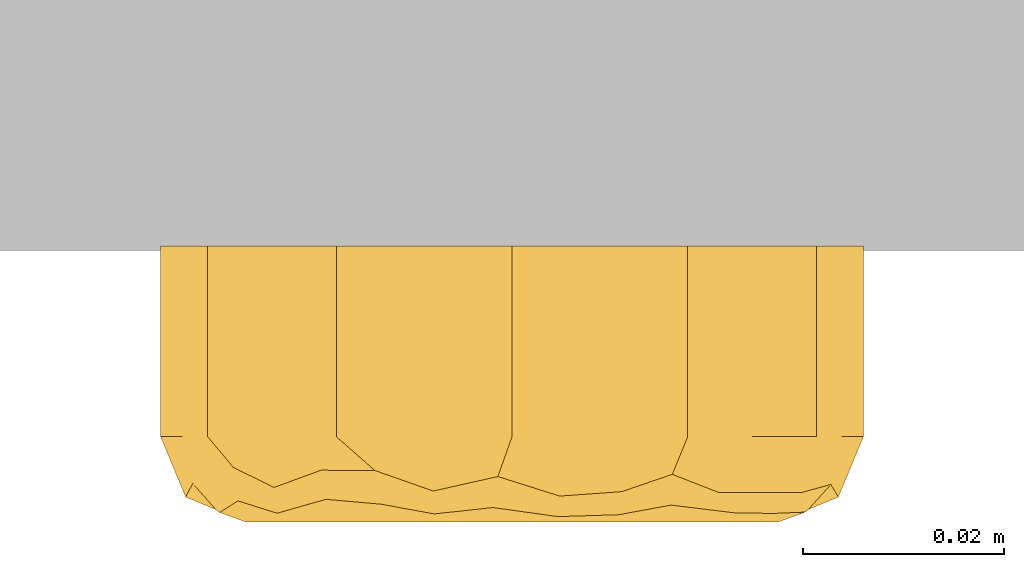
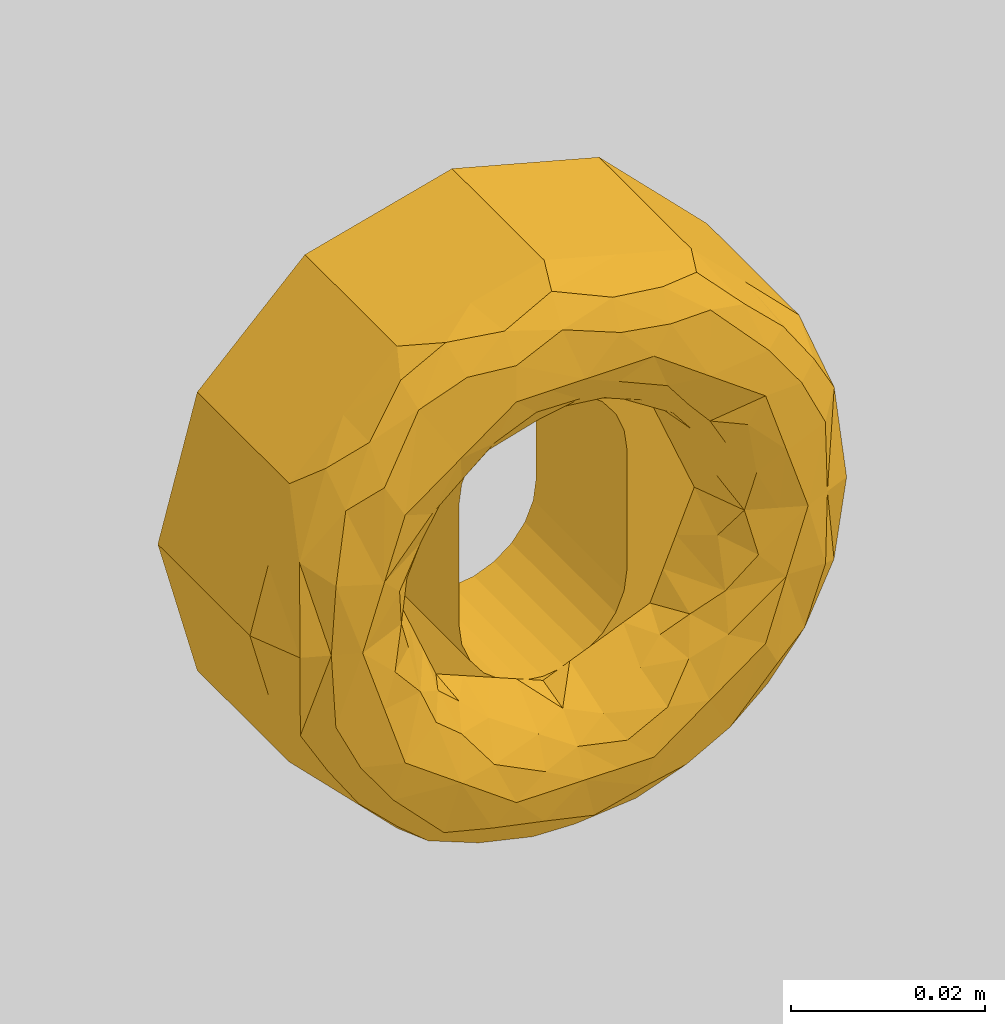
# One storey, part 2 of 2: 1 door.
"""IFC2X3 building model written with IfcOpenShell, lengths in feet."""

from ifc_helpers import new_model, entity, si_unit, converted_unit, derived_unit, direction, frame, origin, place, context, subcontext, project, spatial, face_set, surface_model, source, transform, mapped, type_object, type_shapes, element, save


model = new_model("IFC2X3")

# Units and contexts
model_context = context("Model", 3, precision=0.0001, world=origin(), true_north=direction((6.12303176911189e-17, 1.0)))
body_context = subcontext(model_context, "Body", "Model", "MODEL_VIEW")
ifc_project = project(units=[converted_unit("LENGTHUNIT", "FOOT", entity("IfcRatioMeasure", 0.3048), si_unit("LENGTHUNIT", "METRE"), dimensions=[1, 0, 0, 0, 0, 0, 0]), converted_unit("AREAUNIT", "SQUARE FOOT", entity("IfcRatioMeasure", 0.09290304), si_unit("AREAUNIT", "SQUARE_METRE"), dimensions=[2, 0, 0, 0, 0, 0, 0]), converted_unit("VOLUMEUNIT", "CUBIC FOOT", entity("IfcRatioMeasure", 0.028316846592), si_unit("VOLUMEUNIT", "CUBIC_METRE"), dimensions=[3, 0, 0, 0, 0, 0, 0]), converted_unit("PLANEANGLEUNIT", "DEGREE", entity("IfcRatioMeasure", 0.0174532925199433), si_unit("PLANEANGLEUNIT", "RADIAN"), dimensions=[0, 0, 0, 0, 0, 0, 0]), si_unit("MASSUNIT", "GRAM", prefix="KILO"), derived_unit("MASSDENSITYUNIT", [(si_unit("MASSUNIT", "GRAM", prefix="KILO"), 1), (si_unit("LENGTHUNIT", "METRE"), -3)]), si_unit("TIMEUNIT", "SECOND"), si_unit("FREQUENCYUNIT", "HERTZ"), si_unit("THERMODYNAMICTEMPERATUREUNIT", "DEGREE_CELSIUS"), derived_unit("THERMALTRANSMITTANCEUNIT", [(si_unit("MASSUNIT", "GRAM", prefix="KILO"), 1), (si_unit("THERMODYNAMICTEMPERATUREUNIT", "KELVIN"), -1), (si_unit("TIMEUNIT", "SECOND"), -3)]), derived_unit("VOLUMETRICFLOWRATEUNIT", [(si_unit("LENGTHUNIT", "METRE"), 3), (si_unit("TIMEUNIT", "SECOND"), -1)]), si_unit("ELECTRICCURRENTUNIT", "AMPERE"), si_unit("ELECTRICVOLTAGEUNIT", "VOLT"), si_unit("POWERUNIT", "WATT"), si_unit("FORCEUNIT", "NEWTON"), si_unit("ILLUMINANCEUNIT", "LUX"), si_unit("LUMINOUSFLUXUNIT", "LUMEN"), si_unit("LUMINOUSINTENSITYUNIT", "CANDELA"), derived_unit("USERDEFINED", [(si_unit("MASSUNIT", "GRAM", prefix="KILO"), -1), (si_unit("LENGTHUNIT", "METRE"), -2), (si_unit("TIMEUNIT", "SECOND"), 3), (si_unit("LUMINOUSFLUXUNIT", "LUMEN"), 1)]), derived_unit("LINEARVELOCITYUNIT", [(si_unit("LENGTHUNIT", "METRE"), 1), (si_unit("TIMEUNIT", "SECOND"), -1)]), si_unit("PRESSUREUNIT", "PASCAL"), derived_unit("USERDEFINED", [(si_unit("LENGTHUNIT", "METRE"), -2), (si_unit("MASSUNIT", "GRAM", prefix="KILO"), 1), (si_unit("TIMEUNIT", "SECOND"), -2)])], contexts=[model_context])

# Site, building, storey
site_placement = place(None, origin())
site = spatial("IfcSite", under=ifc_project, at=site_placement, Name="Default", CompositionType="ELEMENT")
building_placement = place(site_placement, origin())
building = spatial("IfcBuilding", under=site, at=building_placement, CompositionType="ELEMENT")
storey_placement = place(building_placement, origin())
storey = spatial("IfcBuildingStorey", under=building, at=storey_placement, Name="Level 1", CompositionType="ELEMENT", Elevation=0.0)

# Door
door_style = type_object("IfcDoorStyle", Name="dline_Hardware_TomDixonCollection_Escutcheons_Oval_Half_SnapOn_18.25", ConstructionType="NOTDEFINED", OperationType="DOUBLE_SWING_RIGHT", ParameterTakesPrecedence=False, Sizeable=False)
shared_shape = source(origin(), body_context, "Body", "SurfaceModel", [
    surface_model("IfcFaceBasedSurfaceModel", [(-0.114829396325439, 0.0, -0.00161922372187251), (-0.0994451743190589, 0.0574146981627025, -0.00161922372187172), (-0.0574146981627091, 0.0994451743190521, -0.00161922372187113), (0.0, 0.114829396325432, -0.00161922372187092), (0.0574146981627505, 0.099445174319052, -0.00161922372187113), (0.0994451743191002, 0.0574146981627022, -0.00161922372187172), (0.11482939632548, 0.0, -0.00161922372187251), (0.0328083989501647, 0.0, -0.00161922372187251), (0.0328083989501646, 0.0246062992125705, -0.00161922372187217), (0.0316904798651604, 0.033097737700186, -0.00161922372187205), (0.028412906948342, 0.0410104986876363, -0.00161922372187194), (0.0231990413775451, 0.0478053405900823, -0.00161922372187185), (0.0164041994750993, 0.0530192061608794, -0.00161922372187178), (0.00849143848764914, 0.0562967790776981, -0.00161922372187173), (0.0, 0.0574146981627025, -0.00161922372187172), (-0.00849143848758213, 0.0562967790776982, -0.00161922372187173), (-0.0164041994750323, 0.0530192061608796, -0.00161922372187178), (-0.0231990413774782, 0.0478053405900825, -0.00161922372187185), (-0.0284129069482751, 0.0410104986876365, -0.00161922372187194), (-0.0316904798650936, 0.0330977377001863, -0.00161922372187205), (-0.0328083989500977, 0.0246062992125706, -0.00161922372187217), (-0.0328083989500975, 0.0, -0.00161922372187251), (0.0994451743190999, -0.0574146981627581, -0.0016192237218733), (0.0574146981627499, -0.0994451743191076, -0.00161922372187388), (0.0, -0.114829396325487, -0.0016192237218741), (-0.0574146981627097, -0.099445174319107, -0.00161922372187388), (-0.0994451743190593, -0.0574146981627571, -0.0016192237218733), (-0.0328083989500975, -0.0246062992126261, -0.00161922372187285), (-0.0316904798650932, -0.0330977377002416, -0.00161922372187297), (-0.0284129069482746, -0.0410104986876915, -0.00161922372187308), (-0.0231990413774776, -0.047805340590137, -0.00161922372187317), (-0.0164041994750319, -0.0530192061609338, -0.00161922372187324), (-0.00849143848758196, -0.0562967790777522, -0.00161922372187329), (0.0, -0.0574146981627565, -0.0016192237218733), (0.0084914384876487, -0.0562967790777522, -0.00161922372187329), (0.0164041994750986, -0.0530192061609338, -0.00161922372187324), (0.0231990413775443, -0.047805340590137, -0.00161922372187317), (0.0284129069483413, -0.0410104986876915, -0.00161922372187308), (0.0316904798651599, -0.0330977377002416, -0.00161922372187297), (0.0328083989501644, -0.0246062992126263, -0.00161922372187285), (0.0994451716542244, 0.0574146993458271, 0.0606955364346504), (0.107137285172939, 0.0287073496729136, -0.0016192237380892), (-0.107137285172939, 0.0287073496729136, 0.0606955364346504), (-0.107137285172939, 0.0287073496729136, -0.0016192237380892), (-0.114829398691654, 0.0, 0.0606955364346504), (0.0784299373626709, 0.0784299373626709, 0.0606955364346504), (0.0784299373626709, 0.0784299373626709, -0.0016192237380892), (0.107857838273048, 0.0260182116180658, 0.0606955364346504), (0.0574146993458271, 0.0994451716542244, 0.0606955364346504), (0.0287073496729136, 0.107137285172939, -0.0016192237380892), (0.0, 0.114829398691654, 0.0606955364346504), (0.0287073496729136, 0.107137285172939, 0.0606955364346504), (-0.0287073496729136, 0.107137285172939, 0.0606955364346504), (-0.0287073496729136, 0.107137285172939, -0.0016192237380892), (-0.0784299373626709, 0.0784299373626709, -0.0016192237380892), (-0.0994451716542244, 0.0574146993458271, 0.0606955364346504), (-0.0784299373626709, 0.0784299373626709, 0.0606955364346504), (-0.0574146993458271, 0.0994451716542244, 0.0606955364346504), (0.114829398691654, 0.0, 0.0606955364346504), (-0.0994451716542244, -0.0574146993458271, 0.0606955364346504), (-0.107137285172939, -0.0287073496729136, -0.0016192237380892), (0.107137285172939, -0.0287073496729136, 0.0606955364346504), (0.0994451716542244, -0.0574146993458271, 0.0606955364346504), (0.107137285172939, -0.0287073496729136, -0.0016192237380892), (-0.0784299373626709, -0.0784299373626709, 0.0606955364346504), (-0.0784299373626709, -0.0784299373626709, -0.0016192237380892), (-0.107857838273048, -0.0260182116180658, 0.0606955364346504), (-0.0574146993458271, -0.0994451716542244, 0.0606955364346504), (-0.0287073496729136, -0.107137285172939, -0.0016192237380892), (0.0, -0.114829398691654, 0.0606955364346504), (-0.0287073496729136, -0.107137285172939, 0.0606955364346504), (0.0287073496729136, -0.107137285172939, 0.0606955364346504), (0.0287073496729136, -0.107137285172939, -0.0016192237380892), (0.0784299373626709, -0.0784299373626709, -0.0016192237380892), (0.0784299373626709, -0.0784299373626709, 0.0606955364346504), (0.0574146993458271, -0.0994451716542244, 0.0606955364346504), (0.104185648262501, 0.0354321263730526, 0.0763133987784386), (0.10769384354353, 0.0266302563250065, 0.0606955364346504), (-0.00460470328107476, 0.111512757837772, 0.0737072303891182), (-0.0257417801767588, 0.105345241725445, 0.0784532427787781), (-0.00619756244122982, 0.102307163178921, 0.0838431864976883), (0.0358880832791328, 0.102162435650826, 0.0786477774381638), (0.0155927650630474, 0.105819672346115, 0.0801091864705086), (0.095525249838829, 0.0295866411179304, 0.0853355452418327), (0.0948657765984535, 0.0518237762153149, 0.0788647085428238), (0.086100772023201, 0.0492820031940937, 0.0857407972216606), (-0.0607702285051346, 0.086708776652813, 0.0811626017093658), (-0.0427446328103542, 0.0948088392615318, 0.0827580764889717), (-0.0447977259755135, 0.103246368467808, 0.0717467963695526), (0.106661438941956, 0.0, 0.0804147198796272), (0.0676873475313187, 0.0841498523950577, 0.0789849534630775), (0.0520024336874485, 0.0896197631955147, 0.0830501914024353), (0.0733057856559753, 0.0671199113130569, 0.0856492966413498), (0.0703377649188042, 0.051103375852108, 0.0885826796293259), (0.0523817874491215, 0.0989614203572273, 0.0729967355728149), (0.0348720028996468, 0.0918425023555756, 0.0861916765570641), (-0.0623906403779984, 0.093721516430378, 0.0716467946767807), (0.0968018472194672, 0.0, 0.0844987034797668), (0.0486022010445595, 0.0668951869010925, 0.0885826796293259), (-0.104311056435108, 0.0357333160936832, 0.0759890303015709), (-0.0895434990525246, 0.0554412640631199, 0.0816727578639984), (-0.0910296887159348, 0.0668764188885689, 0.0707465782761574), (-0.0253979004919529, 0.0954931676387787, 0.0859300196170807), (-0.0486022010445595, 0.0668951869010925, 0.0885826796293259), (-0.0777445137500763, 0.0769081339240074, 0.0772861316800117), (-0.0767557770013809, 0.0629682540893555, 0.0857051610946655), (-0.0955414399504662, 0.0286489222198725, 0.0854705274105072), (-0.0968018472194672, 0.0, 0.0844987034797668), (-0.10769384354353, 0.0266302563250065, 0.0606955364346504), (-0.106661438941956, 0.0, 0.0804147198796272), (0.0149465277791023, 0.0955802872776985, 0.0868041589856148), (-0.0786400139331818, 0.025551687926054, 0.0885826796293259), (-0.0869422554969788, 0.0, 0.0885826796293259), (0.0869422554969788, 0.0, 0.0885826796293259), (0.0786400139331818, 0.025551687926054, 0.0885826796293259), (0.0827525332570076, 0.069546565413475, 0.0788674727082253), (0.0268666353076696, 0.0826869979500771, 0.0885826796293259), (0.0, 0.0826869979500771, 0.0885826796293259), (-0.0703377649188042, 0.051103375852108, 0.0885826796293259), (-0.0268666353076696, 0.0826869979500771, 0.0885826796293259), (-0.104185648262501, -0.0354321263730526, 0.0763133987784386), (-0.10769384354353, -0.0266302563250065, 0.0606955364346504), (0.0895434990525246, -0.0554412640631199, 0.0816727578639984), (0.0786400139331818, -0.025551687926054, 0.0885826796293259), (0.0767557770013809, -0.0629682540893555, 0.0857051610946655), (0.10769384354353, -0.0266302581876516, 0.0606955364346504), (0.104311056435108, -0.0357333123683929, 0.0759890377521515), (-0.095525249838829, -0.0295866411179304, 0.0853355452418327), (-0.0948657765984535, -0.0518237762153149, 0.0788647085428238), (-0.086100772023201, -0.0492820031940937, 0.0857407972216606), (-0.0486022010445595, -0.0668951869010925, 0.0885826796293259), (-0.0703377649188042, -0.051103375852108, 0.0885826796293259), (-0.0733057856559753, -0.0671199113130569, 0.0856492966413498), (-0.0358880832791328, -0.102162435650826, 0.0786477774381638), (-0.0155927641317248, -0.105819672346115, 0.0801091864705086), (-0.0676873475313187, -0.0841498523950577, 0.0789849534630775), (-0.0520024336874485, -0.0896197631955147, 0.0830501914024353), (-0.0348720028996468, -0.0918425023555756, 0.0861916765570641), (0.00460470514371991, -0.111512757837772, 0.0737072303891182), (0.0910296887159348, -0.0668764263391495, 0.0707465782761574), (0.0607702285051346, -0.0867087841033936, 0.0811626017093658), (0.0447977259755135, -0.103246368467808, 0.0717467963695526), (0.0623906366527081, -0.093721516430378, 0.0716467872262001), (0.0427446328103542, -0.0948088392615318, 0.0827580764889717), (0.025397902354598, -0.0954931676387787, 0.0859300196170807), (0.0257417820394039, -0.105345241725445, 0.0784532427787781), (0.0777445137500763, -0.0769081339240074, 0.0772861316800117), (0.0955414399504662, -0.0286489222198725, 0.0854705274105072), (0.00619756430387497, -0.102307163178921, 0.0838431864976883), (-0.0149465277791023, -0.0955802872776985, 0.0868041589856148), (0.0486022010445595, -0.0668951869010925, 0.0885826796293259), (-0.0523817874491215, -0.0989614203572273, 0.0729967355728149), (-0.0786400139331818, -0.025551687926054, 0.0885826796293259), (-0.0827525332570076, -0.069546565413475, 0.0788674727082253), (-0.0268666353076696, -0.0826869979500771, 0.0885826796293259), (0.0, -0.0826869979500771, 0.0885826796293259), (0.0703377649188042, -0.051103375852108, 0.0885826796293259), (0.0268666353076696, -0.0826869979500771, 0.0885826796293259), (0.0784134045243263, 0.0262491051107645, 0.0885826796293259), (0.0595088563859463, 0.030643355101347, 0.0801225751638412), (0.0484802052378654, 0.0383875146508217, 0.0728390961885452), (0.044356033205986, 0.052351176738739, 0.0817152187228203), (0.0548929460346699, 0.0432777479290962, 0.0827704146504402), (-0.0606496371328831, 0.0123952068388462, 0.0729733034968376), (-0.0519581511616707, 0.0171627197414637, 0.0598753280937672), (-0.0590671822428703, 0.0, 0.0598753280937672), (0.0724360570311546, 0.0148040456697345, 0.085362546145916), (0.06114686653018, 0.0148187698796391, 0.0748544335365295), (0.0669351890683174, 0.0, 0.0801225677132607), (0.0590671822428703, 0.0, 0.0598753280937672), (-0.0104417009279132, 0.0547420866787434, 0.0598753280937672), (-0.0208834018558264, 0.0504169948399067, 0.0598753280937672), (-0.0123898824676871, 0.0651603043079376, 0.0794768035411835), (0.0519581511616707, 0.0171627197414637, 0.0598753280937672), (0.0337963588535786, 0.0663290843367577, 0.085624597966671), (-0.0784134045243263, 0.0262491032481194, 0.0885826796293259), (-0.0578487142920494, 0.0450543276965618, 0.0850312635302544), (0.0468624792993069, 0.0294647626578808, 0.0598753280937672), (-0.0595088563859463, 0.030643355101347, 0.0801225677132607), (-0.0700549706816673, 0.0169776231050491, 0.0842940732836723), (-0.0337963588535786, 0.0663290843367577, 0.085624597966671), (-0.029567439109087, 0.055287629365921, 0.0744750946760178), (-0.0669351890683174, 0.0, 0.0801225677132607), (-0.044356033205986, 0.052351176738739, 0.0817152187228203), (-0.0487650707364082, 0.039685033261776, 0.0747786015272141), (0.0417668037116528, 0.0417668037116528, 0.0598753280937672), (0.0394373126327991, 0.0467448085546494, 0.0713208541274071), (0.0143742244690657, 0.0754772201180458, 0.0866861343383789), (0.0295674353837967, 0.0552876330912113, 0.0744750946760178), (0.0208834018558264, 0.0504169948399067, 0.0598753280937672), (0.0129081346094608, 0.0648935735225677, 0.0792964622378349), (-0.0313251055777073, 0.0460918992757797, 0.0598753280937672), (-0.0390795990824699, 0.0469961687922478, 0.0712306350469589), (0.000194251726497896, 0.0621994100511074, 0.0735601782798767), (0.000380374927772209, 0.0715737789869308, 0.0839664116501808), (-0.0134333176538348, 0.0826869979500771, 0.0885826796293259), (-0.017739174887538, 0.0738889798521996, 0.0863413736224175), (0.0104417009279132, 0.0547420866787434, 0.0598753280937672), (0.0313251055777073, 0.0460918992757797, 0.0598753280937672), (-0.0417668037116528, 0.0417668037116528, 0.0598753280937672), (-0.0468624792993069, 0.0294647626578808, 0.0598753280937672), (0.0, 0.0590671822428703, 0.0598753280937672), (-0.0647844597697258, -0.0398912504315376, 0.0863807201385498), (-0.0695305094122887, -0.0168505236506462, 0.0839455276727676), (-0.0784134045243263, -0.0262491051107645, 0.0885826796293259), (-0.0295674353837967, -0.0552876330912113, 0.0744750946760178), (-0.0435471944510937, -0.0435946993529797, 0.0723748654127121), (-0.0313251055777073, -0.0460918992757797, 0.0598753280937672), (-0.0208834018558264, -0.0504169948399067, 0.0598753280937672), (-0.0104417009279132, -0.0547420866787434, 0.0598753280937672), (-0.0129081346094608, -0.0648935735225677, 0.0792964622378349), (-0.059508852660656, -0.0306433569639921, 0.0801225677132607), (-0.0530390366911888, -0.042167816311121, 0.0809363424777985), (-0.0743755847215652, -0.0386762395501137, 0.0885826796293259), (-0.0417668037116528, -0.0417668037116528, 0.0598753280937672), (-0.0510150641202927, -0.0340855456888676, 0.0717839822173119), (0.0606496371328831, -0.0123952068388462, 0.0729733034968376), (0.0519581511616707, -0.0171627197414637, 0.0598753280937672), (-0.0443560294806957, -0.0523511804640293, 0.0817152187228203), (-0.0337963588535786, -0.0663290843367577, 0.085624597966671), (0.0337963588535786, -0.0663290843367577, 0.085624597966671), (0.044356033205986, -0.052351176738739, 0.0817152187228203), (0.0784134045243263, -0.0262491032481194, 0.0885826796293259), (0.0578487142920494, -0.0450543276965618, 0.0850312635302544), (0.0595088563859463, -0.030643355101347, 0.0801225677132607), (0.0700549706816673, -0.0169776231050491, 0.0842940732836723), (-0.060554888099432, -0.0119150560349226, 0.0725836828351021), (0.0123898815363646, -0.0651603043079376, 0.0794768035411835), (0.0295674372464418, -0.055287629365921, 0.0744750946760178), (-0.077693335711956, 0.0, 0.0846717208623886), (0.0487650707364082, -0.039685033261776, 0.0747786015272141), (-0.0143742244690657, -0.0754772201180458, 0.0866861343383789), (0.0104417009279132, -0.0547420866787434, 0.0598753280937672), (0.0208834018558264, -0.0504169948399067, 0.0598753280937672), (0.0313251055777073, -0.0460918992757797, 0.0598753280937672), (0.0390795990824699, -0.0469961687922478, 0.0712306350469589), (-0.000194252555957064, -0.0621994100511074, 0.0735601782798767), (-0.000380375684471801, -0.0715737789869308, 0.0839664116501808), (0.0134333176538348, -0.0826869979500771, 0.0885826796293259), (0.017739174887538, -0.0738889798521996, 0.0863413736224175), (-0.0519581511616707, -0.0171627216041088, 0.0598753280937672), (-0.0468624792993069, -0.0294647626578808, 0.0598753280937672), (0.0417668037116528, -0.0417668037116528, 0.0598753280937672), (0.0468624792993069, -0.0294647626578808, 0.0598753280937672), (0.0, -0.0590671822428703, 0.0598753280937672), (-0.0328083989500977, 0.0, 0.0598753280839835), (-0.0328083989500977, 0.0246062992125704, 0.0598753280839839), (-0.0316904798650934, 0.0330977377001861, 0.059875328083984), (-0.0284129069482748, 0.0410104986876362, 0.0598753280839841), (-0.0231990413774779, 0.0478053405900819, 0.0598753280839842), (-0.0164041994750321, 0.0530192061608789, 0.0598753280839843), (-0.00849143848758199, 0.0562967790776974, 0.0598753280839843), (0.0, 0.0574146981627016, 0.0598753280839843), (0.008491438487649, 0.0562967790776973, 0.0598753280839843), (0.0164041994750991, 0.0530192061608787, 0.0598753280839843), (0.0231990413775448, 0.0478053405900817, 0.0598753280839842), (0.0284129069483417, 0.0410104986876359, 0.0598753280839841), (0.0316904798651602, 0.0330977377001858, 0.059875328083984), (0.0328083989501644, 0.0246062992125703, 0.0598753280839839), (0.0328083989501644, 0.0, 0.0598753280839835), (0.0328083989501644, -0.0246062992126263, 0.0598753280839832), (0.0316904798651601, -0.0330977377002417, 0.0598753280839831), (0.0284129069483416, -0.0410104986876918, 0.059875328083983), (0.0231990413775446, -0.0478053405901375, 0.0598753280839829), (0.0164041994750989, -0.0530192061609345, 0.0598753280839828), (0.00849143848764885, -0.056296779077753, 0.0598753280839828), (0.0, -0.0574146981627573, 0.0598753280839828), (-0.00849143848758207, -0.056296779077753, 0.0598753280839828), (-0.0164041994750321, -0.0530192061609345, 0.0598753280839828), (-0.0231990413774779, -0.0478053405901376, 0.0598753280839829), (-0.0284129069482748, -0.0410104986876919, 0.059875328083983), (-0.0316904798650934, -0.0330977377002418, 0.0598753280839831), (-0.0328083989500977, -0.0246062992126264, 0.0598753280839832)], [face_set([[[0, 1, 2, 3, 4, 5, 6, 7, 8, 9, 10, 11, 12, 13, 14, 15, 16, 17, 18, 19, 20, 21]], [[6, 22, 23, 24, 25, 26, 0, 21, 27, 28, 29, 30, 31, 32, 33, 34, 35, 36, 37, 38, 39, 7]], [[40, 41, 5]], [[42, 43, 0, 44]], [[45, 40, 5, 46]], [[40, 47, 41]], [[47, 6, 41]], [[46, 4, 48, 45]], [[49, 3, 50, 51]], [[4, 49, 51, 48]], [[52, 50, 3, 53]], [[54, 1, 55, 56]], [[2, 54, 56, 57]], [[6, 47, 58]], [[42, 55, 1, 43]], [[53, 2, 57, 52]], [[59, 60, 26]], [[61, 62, 22, 63]], [[64, 59, 26, 65]], [[0, 66, 44]], [[66, 0, 60]], [[67, 64, 65, 25]], [[68, 24, 69, 70]], [[59, 66, 60]], [[25, 68, 70, 67]], [[71, 69, 24, 72]], [[73, 22, 62, 74]], [[23, 73, 74, 75]], [[63, 6, 58, 61]], [[72, 23, 75, 71]], [[40, 76, 77]], [[78, 79, 80]], [[81, 51, 82]], [[83, 84, 85]], [[86, 87, 88]], [[76, 89, 77]], [[90, 91, 92]], [[76, 84, 83]], [[85, 92, 93]], [[94, 91, 90]], [[91, 81, 95]], [[78, 52, 79]], [[78, 82, 51]], [[89, 58, 77]], [[88, 96, 86]], [[83, 97, 76]], [[98, 93, 92]], [[99, 100, 101]], [[84, 40, 45]], [[87, 102, 79]], [[102, 87, 103]], [[104, 105, 86]], [[106, 99, 107]], [[48, 90, 45]], [[108, 109, 99]], [[82, 110, 95]], [[100, 111, 105]], [[55, 101, 56]], [[99, 55, 108]], [[108, 44, 109]], [[107, 112, 106]], [[97, 83, 113]], [[97, 89, 76]], [[40, 84, 76]], [[85, 93, 114]], [[114, 113, 83]], [[85, 84, 115]], [[85, 115, 92]], [[83, 85, 114]], [[90, 92, 115]], [[98, 92, 91]], [[90, 115, 45]], [[94, 90, 48]], [[50, 78, 51]], [[81, 91, 94]], [[94, 48, 51]], [[51, 81, 94]], [[95, 98, 91]], [[110, 82, 80]], [[82, 95, 81]], [[98, 95, 116]], [[102, 117, 80]], [[116, 95, 110]], [[117, 116, 110]], [[102, 80, 79]], [[117, 110, 80]], [[82, 78, 80]], [[57, 88, 52]], [[86, 118, 103]], [[117, 102, 119]], [[87, 79, 88]], [[119, 102, 103]], [[103, 87, 86]], [[78, 50, 52]], [[52, 88, 79]], [[88, 57, 96]], [[101, 100, 104]], [[104, 86, 96]], [[96, 57, 56]], [[56, 104, 96]], [[105, 104, 100]], [[56, 101, 104]], [[99, 101, 55]], [[84, 45, 115]], [[86, 105, 118]], [[100, 106, 111]], [[111, 118, 105]], [[99, 109, 107]], [[111, 106, 112]], [[99, 106, 100]], [[59, 120, 121]], [[122, 123, 124]], [[125, 89, 126]], [[127, 128, 129]], [[130, 131, 132]], [[120, 109, 121]], [[133, 70, 134]], [[120, 128, 127]], [[129, 132, 131]], [[135, 136, 132]], [[136, 133, 137]], [[128, 59, 64]], [[138, 134, 70]], [[127, 107, 120]], [[126, 122, 139]], [[109, 44, 121]], [[62, 139, 74]], [[140, 141, 142]], [[67, 135, 64]], [[143, 144, 145]], [[138, 71, 145]], [[146, 124, 140]], [[147, 126, 97]], [[138, 145, 148]], [[140, 143, 141]], [[134, 149, 137]], [[144, 143, 150]], [[151, 136, 135]], [[126, 62, 125]], [[125, 58, 89]], [[97, 113, 147]], [[107, 127, 112]], [[107, 109, 120]], [[59, 128, 120]], [[129, 131, 152]], [[152, 112, 127]], [[129, 128, 153]], [[129, 153, 132]], [[127, 129, 152]], [[135, 132, 153]], [[130, 132, 136]], [[135, 153, 64]], [[151, 135, 67]], [[69, 138, 70]], [[133, 136, 151]], [[151, 67, 70]], [[70, 133, 151]], [[137, 130, 136]], [[149, 134, 148]], [[134, 137, 133]], [[130, 137, 154]], [[144, 155, 148]], [[154, 137, 149]], [[155, 154, 149]], [[144, 148, 145]], [[155, 149, 148]], [[134, 138, 148]], [[75, 141, 71]], [[140, 156, 150]], [[155, 144, 157]], [[143, 145, 141]], [[157, 144, 150]], [[150, 143, 140]], [[138, 69, 71]], [[71, 141, 145]], [[141, 75, 142]], [[139, 122, 146]], [[146, 140, 142]], [[142, 75, 74]], [[74, 146, 142]], [[124, 146, 122]], [[74, 139, 146]], [[126, 139, 62]], [[128, 64, 153]], [[140, 124, 156]], [[122, 147, 123]], [[123, 156, 124]], [[126, 89, 97]], [[123, 147, 113]], [[126, 147, 122]], [[158, 93, 159]], [[160, 161, 162]], [[159, 160, 162]], [[163, 164, 165]], [[159, 166, 167]], [[168, 169, 167]], [[170, 171, 172]], [[173, 159, 167]], [[161, 98, 174]], [[161, 98, 162]], [[118, 175, 176]], [[159, 177, 160]], [[178, 164, 163]], [[179, 178, 163]], [[175, 176, 178]], [[180, 172, 181]], [[112, 182, 179]], [[183, 184, 176]], [[179, 178, 175]], [[113, 158, 166]], [[185, 186, 160]], [[187, 174, 116]], [[180, 103, 183]], [[188, 189, 190]], [[181, 191, 192]], [[161, 188, 174]], [[193, 172, 194]], [[180, 119, 103]], [[193, 170, 172]], [[187, 117, 194]], [[195, 196, 194]], [[174, 98, 116]], [[190, 197, 193]], [[174, 188, 190]], [[186, 198, 188]], [[183, 180, 181]], [[118, 176, 103]], [[196, 172, 180]], [[184, 183, 192]], [[185, 160, 177]], [[159, 173, 177]], [[161, 160, 186]], [[159, 93, 162]], [[98, 162, 93]], [[186, 188, 161]], [[173, 167, 169]], [[189, 188, 198]], [[186, 185, 198]], [[168, 167, 166]], [[113, 166, 168]], [[159, 166, 158]], [[112, 179, 175]], [[182, 179, 163]], [[182, 163, 165]], [[199, 200, 184]], [[200, 164, 178]], [[178, 176, 184]], [[183, 176, 103]], [[178, 184, 200]], [[199, 184, 192]], [[181, 171, 191]], [[192, 183, 181]], [[191, 199, 192]], [[201, 193, 197]], [[190, 189, 197]], [[190, 193, 194]], [[190, 194, 187]], [[194, 117, 195]], [[196, 195, 119]], [[180, 196, 119]], [[172, 196, 194]], [[190, 187, 174]], [[117, 187, 116]], [[181, 172, 171]], [[170, 193, 201]], [[202, 203, 204]], [[205, 206, 207]], [[208, 209, 210]], [[211, 212, 202]], [[213, 131, 202]], [[214, 206, 215]], [[216, 217, 169]], [[202, 204, 213]], [[218, 130, 219]], [[220, 150, 221]], [[156, 222, 223]], [[218, 131, 130]], [[224, 217, 216]], [[225, 224, 216]], [[203, 182, 226]], [[220, 227, 228]], [[229, 112, 204]], [[221, 230, 223]], [[225, 224, 222]], [[226, 182, 165]], [[113, 168, 225]], [[231, 219, 154]], [[232, 233, 227]], [[222, 223, 224]], [[228, 234, 235]], [[218, 205, 219]], [[236, 227, 237]], [[220, 157, 150]], [[236, 232, 227]], [[231, 155, 237]], [[238, 239, 237]], [[219, 130, 154]], [[205, 208, 210]], [[219, 205, 210]], [[206, 214, 207]], [[221, 220, 228]], [[156, 223, 150]], [[239, 227, 220]], [[230, 221, 235]], [[207, 208, 205]], [[204, 203, 229]], [[182, 229, 203]], [[240, 211, 226]], [[203, 226, 211]], [[240, 226, 165]], [[203, 211, 202]], [[218, 212, 131]], [[202, 131, 212]], [[212, 206, 218]], [[211, 215, 212]], [[218, 206, 205]], [[240, 215, 211]], [[241, 214, 215]], [[212, 215, 206]], [[241, 215, 240]], [[113, 225, 222]], [[168, 225, 216]], [[168, 216, 169]], [[242, 243, 230]], [[243, 217, 224]], [[224, 223, 230]], [[221, 223, 150]], [[224, 230, 243]], [[242, 230, 235]], [[228, 233, 234]], [[235, 221, 228]], [[234, 242, 235]], [[210, 209, 236]], [[244, 236, 209]], [[210, 236, 237]], [[210, 237, 231]], [[237, 155, 238]], [[239, 238, 157]], [[220, 239, 157]], [[227, 239, 237]], [[210, 231, 219]], [[155, 231, 154]], [[228, 227, 233]], [[232, 236, 244]], [[169, 185, 201, 199, 165, 245, 246, 247, 248, 249, 250, 251, 252, 253, 254, 255, 256, 257, 258, 259]], [[165, 214, 244, 242, 169, 259, 260, 261, 262, 263, 264, 265, 266, 267, 268, 269, 270, 271, 272, 245]], [[258, 259, 260, 39, 7, 8]], [[39, 260, 261, 38]], [[38, 261, 262, 37]], [[36, 263, 264, 35]], [[37, 262, 263, 36]], [[35, 264, 265, 34]], [[266, 33, 34, 265]], [[33, 266, 267, 32]], [[32, 267, 268, 31]], [[30, 269, 270, 29]], [[31, 268, 269, 30]], [[29, 270, 271, 28]], [[272, 27, 28, 271]], [[272, 245, 246, 20, 21, 27]], [[20, 246, 247, 19]], [[19, 247, 248, 18]], [[17, 249, 250, 16]], [[18, 248, 249, 17]], [[16, 250, 251, 15]], [[252, 14, 15, 251]], [[14, 252, 253, 13]], [[13, 253, 254, 12]], [[11, 255, 256, 10]], [[12, 254, 255, 11]], [[10, 256, 257, 9]], [[258, 8, 9, 257]]])]),
])
type_shapes(door_style, [shared_shape])
door_placement = place(storey_placement, frame((-4.02702638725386, 6.03391347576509, 3.00493444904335), z_axis=(0.0, -1.0, 0.0), x_axis=(-1.0, 0.0, 0.0)))
element("IfcDoor", 1, at=door_placement, inside=storey, type_object=door_style, Name="12.9002.02.210:dline_Hardware_TomDixonCollection_Escutcheons_Oval_Half_SnapOn_18.25", ObjectType="12.9002.02.210:dline_Hardware_TomDixonCollection_Escutcheons_Oval_Half_SnapOn_18.25", OverallHeight=0.451914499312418, OverallWidth=0.442913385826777, context=body_context, shape_type="MappedRepresentation", body=[
    mapped(shared_shape, transform((0.0, 0.0, 0.0), scale=1.0)),
])

save(model, "model.ifc")
